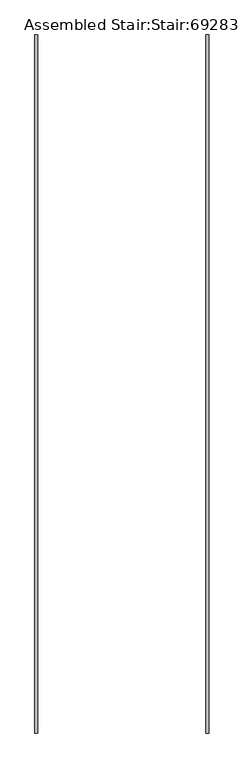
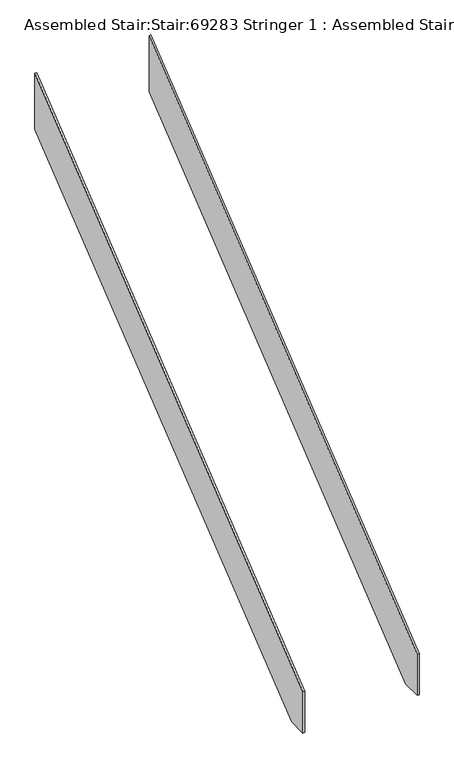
"""IFC4 building model written with IfcOpenShell, lengths in millimetres: stair geometry, Assembled Stair:Stair:69283 Stringer 1 : Assembled Stair:Stair:69283 Stringer 1."""

from ifc_helpers import new_model, si_unit, frame, origin, place, context, project, spatial, polyline, outline, extrude, source, transform, mapped, element, save


def assembled_stair_stair_69283_stringer_1_assembled_stair_stair_75dc44a6(model_context):
    return source(origin(), model_context, "Body", "SweptSolid", [
        extrude(outline(polyline([(-25176.0232476, 0.0), (-25324.6322236, 0.0), (-25324.6322236, 329.4817026), (-21804.6322236, 3153.0111144), (-21804.6322236, 2704.3243508), (-25176.0232476, 0.0)])), frame((28199.8089026, 0.0, 0.0), z_axis=(1.0, 0.0, 0.0), x_axis=(0.0, 1.0, 0.0)), (0.0, 0.0, 1.0), 15.0),
        extrude(outline(polyline([(-25176.0232476, 0.0), (-25324.6322236, 0.0), (-25324.6322236, 329.4817026), (-21804.6322236, 3153.0111144), (-21804.6322236, 2704.3243508), (-25176.0232476, 0.0)])), frame((27334.8089026, 0.0, 0.0), z_axis=(1.0, 0.0, 0.0), x_axis=(0.0, 1.0, 0.0)), (0.0, 0.0, 1.0), 15.0),
    ])


if __name__ == "__main__":
    model = new_model("IFC4")
    model_context = context("Model", 3, world=origin())
    ifc_project = project(units=[si_unit("LENGTHUNIT", "METRE", prefix="MILLI")], contexts=[model_context])
    site = spatial("IfcSite", under=ifc_project)
    building = spatial("IfcBuilding", under=site)
    placement = place(None, origin())
    assembled_stair_stair_69283_stringer_1_assembled_stair_stair_shape = assembled_stair_stair_69283_stringer_1_assembled_stair_stair_75dc44a6(model_context)
    element("IfcStair", 1, ObjectType="Assembled Stair:Stair:69283 Stringer 1 : Assembled Stair:Stair:69283 Stringer 1", at=placement, inside=building, context=model_context, shape_type="MappedRepresentation", body=[
        mapped(assembled_stair_stair_69283_stringer_1_assembled_stair_stair_shape, transform((0.0, 0.0, 0.0), x_axis=(1.0, 0.0, 0.0), y_axis=(0.0, 1.0, 0.0), z_axis=(0.0, 0.0, 1.0))),
    ])
    save(model, "model.ifc")
